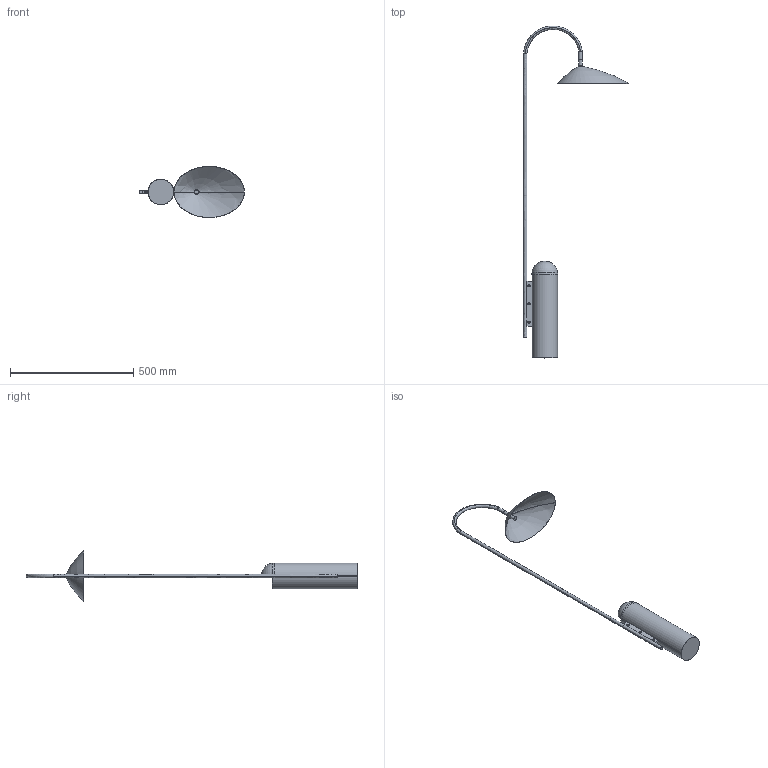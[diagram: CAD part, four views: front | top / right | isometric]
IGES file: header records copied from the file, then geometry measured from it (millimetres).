
Start section: SolidWorks IGES file using analytic representation for surfaces
Global section: file name: F:\燠隴矨\3D\2024-5堎\渾奻換\Arum Floor Lamp.IGS; native system: SolidWorks 2022; preprocessor: SolidWorks 2022; author: MyPC; date: 240518.100720; units: millimetre
Bounding box: 425.67 x 1347.06 x 207.5 mm (x, y, z)
Surface area: 335136.3 mm2 (no closed solid volume)
Topology: 0 solids, 0 shells, 81 faces, 1022 edges, 1017 vertices
Faces by surface type: bspline 51, revolution 30
